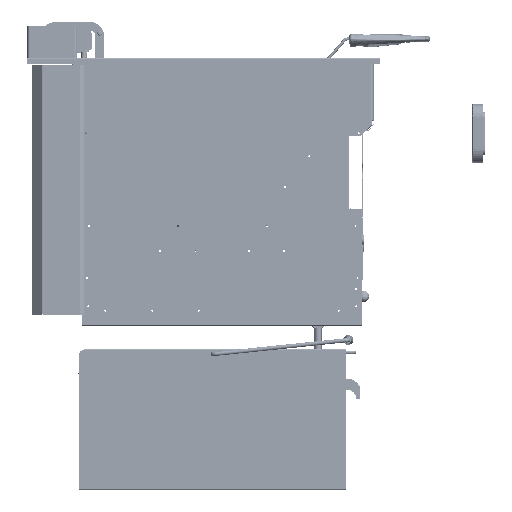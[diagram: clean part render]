
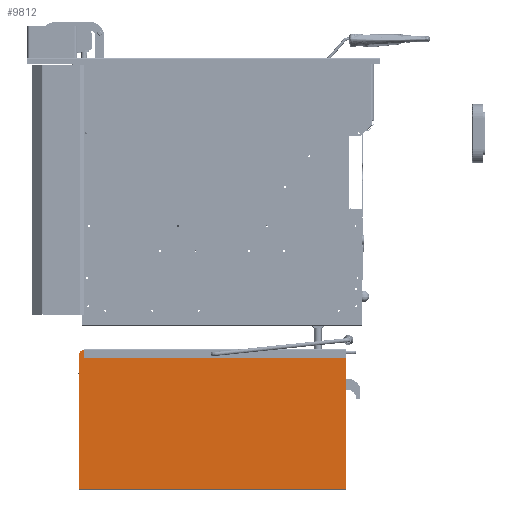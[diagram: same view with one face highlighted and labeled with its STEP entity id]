
A CAD part, left-side view. The second image highlights one B-rep face of the part: STEP entity #9812.
In plain terms, the highlighted planar face has unit normal (-1, 0, 0).
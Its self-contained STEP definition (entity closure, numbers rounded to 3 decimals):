
#2258=FACE_BOUND('',#27795,.T.);
#9812=ADVANCED_FACE('',(#18462,#2258),#139863,.T.);
#18462=FACE_OUTER_BOUND('',#27794,.T.);
#27794=EDGE_LOOP('',(#67154,#67155,#67156,#67157,#67158,#67159,#67160));
#27795=EDGE_LOOP('',(#67161,#67162));
#67154=ORIENTED_EDGE('',*,*,#91947,.F.);
#67155=ORIENTED_EDGE('',*,*,#92026,.F.);
#67156=ORIENTED_EDGE('',*,*,#91940,.F.);
#67157=ORIENTED_EDGE('',*,*,#91948,.F.);
#67158=ORIENTED_EDGE('',*,*,#91949,.F.);
#67159=ORIENTED_EDGE('',*,*,#91950,.F.);
#67160=ORIENTED_EDGE('',*,*,#91951,.F.);
#67161=ORIENTED_EDGE('',*,*,#91921,.T.);
#67162=ORIENTED_EDGE('',*,*,#91982,.F.);
#91921=EDGE_CURVE('',#135056,#135057,#114464,.T.);
#91940=EDGE_CURVE('',#135076,#135078,#106685,.T.);
#91947=EDGE_CURVE('',#135084,#135085,#106692,.T.);
#91948=EDGE_CURVE('',#135083,#135076,#106693,.T.);
#91949=EDGE_CURVE('',#135086,#135083,#106694,.T.);
#91950=EDGE_CURVE('',#135087,#135086,#106695,.T.);
#91951=EDGE_CURVE('',#135085,#135087,#106696,.T.);
#91982=EDGE_CURVE('',#135056,#135057,#114478,.T.);
#92026=EDGE_CURVE('',#135078,#135084,#114492,.T.);
#106685=B_SPLINE_CURVE_WITH_KNOTS('',1,(#437180,#437181),.UNSPECIFIED.,
 .F.,.F.,(2,2),(0.,227.),.UNSPECIFIED.);
#106692=B_SPLINE_CURVE_WITH_KNOTS('',1,(#437194,#437195),.UNSPECIFIED.,
 .F.,.F.,(2,2),(-0.5,0.),.UNSPECIFIED.);
#106693=B_SPLINE_CURVE_WITH_KNOTS('',1,(#437196,#437197),.UNSPECIFIED.,
 .F.,.F.,(2,2),(-455.,0.),.UNSPECIFIED.);
#106694=B_SPLINE_CURVE_WITH_KNOTS('',1,(#437198,#437199),.UNSPECIFIED.,
 .F.,.F.,(2,2),(-236.4,0.),.UNSPECIFIED.);
#106695=B_SPLINE_CURVE_WITH_KNOTS('',1,(#437200,#437201),.UNSPECIFIED.,
 .F.,.F.,(2,2),(-446.5,0.),.UNSPECIFIED.);
#106696=B_SPLINE_CURVE_WITH_KNOTS('',1,(#437202,#437203),.UNSPECIFIED.,
 .F.,.F.,(2,2),(-1.4,0.),.UNSPECIFIED.);
#114464=TRIMMED_CURVE($,#121798,(#437139),(#437140),.T.,.CARTESIAN.);
#114478=TRIMMED_CURVE($,#121812,(#437275),(#437276),.T.,.CARTESIAN.);
#114492=TRIMMED_CURVE($,#121826,(#437377),(#437378),.T.,.CARTESIAN.);
#121798=CIRCLE('',#156739,3.75);
#121812=CIRCLE('',#156753,3.75);
#121826=CIRCLE('',#156767,8.);
#135056=VERTEX_POINT('',#437058);
#135057=VERTEX_POINT('',#437059);
#135076=VERTEX_POINT('',#437078);
#135078=VERTEX_POINT('',#437080);
#135083=VERTEX_POINT('',#437085);
#135084=VERTEX_POINT('',#437086);
#135085=VERTEX_POINT('',#437087);
#135086=VERTEX_POINT('',#437088);
#135087=VERTEX_POINT('',#437089);
#139863=PLANE('',#156695);
#156695=AXIS2_PLACEMENT_3D('',#437010,#176183,$);
#156739=AXIS2_PLACEMENT_3D($,#437138,#176231,#176232);
#156753=AXIS2_PLACEMENT_3D($,#437274,#176259,#176260);
#156767=AXIS2_PLACEMENT_3D($,#437376,#176287,#176288);
#176183=DIRECTION('',(-1.,0.,0.));
#176231=DIRECTION('',(1.,0.,0.));
#176232=DIRECTION('',(0.,-1.,0.));
#176259=DIRECTION('',(-1.,0.,0.));
#176260=DIRECTION('',(0.,-1.,0.));
#176287=DIRECTION('',(1.,0.,0.));
#176288=DIRECTION('',(0.,1.,0.));
#437010=CARTESIAN_POINT('',(-195.,-300.965,377.04));
#437058=CARTESIAN_POINT('',(-195.,-31.715,345.4));
#437059=CARTESIAN_POINT('',(-195.,-24.215,345.4));
#437078=CARTESIAN_POINT('',(-195.,199.535,117.));
#437080=CARTESIAN_POINT('',(-195.,199.535,344.));
#437085=CARTESIAN_POINT('',(-195.,-255.465,117.));
#437086=CARTESIAN_POINT('',(-195.,191.535,352.));
#437087=CARTESIAN_POINT('',(-195.,191.035,352.));
#437088=CARTESIAN_POINT('',(-195.,-255.465,353.4));
#437089=CARTESIAN_POINT('',(-195.,191.035,353.4));
#437138=CARTESIAN_POINT('',(-195.,-27.965,345.4));
#437139=CARTESIAN_POINT('',(-195.,-31.715,345.4));
#437140=CARTESIAN_POINT('',(-195.,-24.215,345.4));
#437180=CARTESIAN_POINT('',(-195.,199.535,117.));
#437181=CARTESIAN_POINT('',(-195.,199.535,344.));
#437194=CARTESIAN_POINT('',(-195.,191.535,352.));
#437195=CARTESIAN_POINT('',(-195.,191.035,352.));
#437196=CARTESIAN_POINT('',(-195.,-255.465,117.));
#437197=CARTESIAN_POINT('',(-195.,199.535,117.));
#437198=CARTESIAN_POINT('',(-195.,-255.465,353.4));
#437199=CARTESIAN_POINT('',(-195.,-255.465,117.));
#437200=CARTESIAN_POINT('',(-195.,191.035,353.4));
#437201=CARTESIAN_POINT('',(-195.,-255.465,353.4));
#437202=CARTESIAN_POINT('',(-195.,191.035,352.));
#437203=CARTESIAN_POINT('',(-195.,191.035,353.4));
#437274=CARTESIAN_POINT('',(-195.,-27.965,345.4));
#437275=CARTESIAN_POINT('',(-195.,-31.715,345.4));
#437276=CARTESIAN_POINT('',(-195.,-24.215,345.4));
#437376=CARTESIAN_POINT('',(-195.,191.535,344.));
#437377=CARTESIAN_POINT('',(-195.,199.535,344.));
#437378=CARTESIAN_POINT('',(-195.,191.535,352.));
